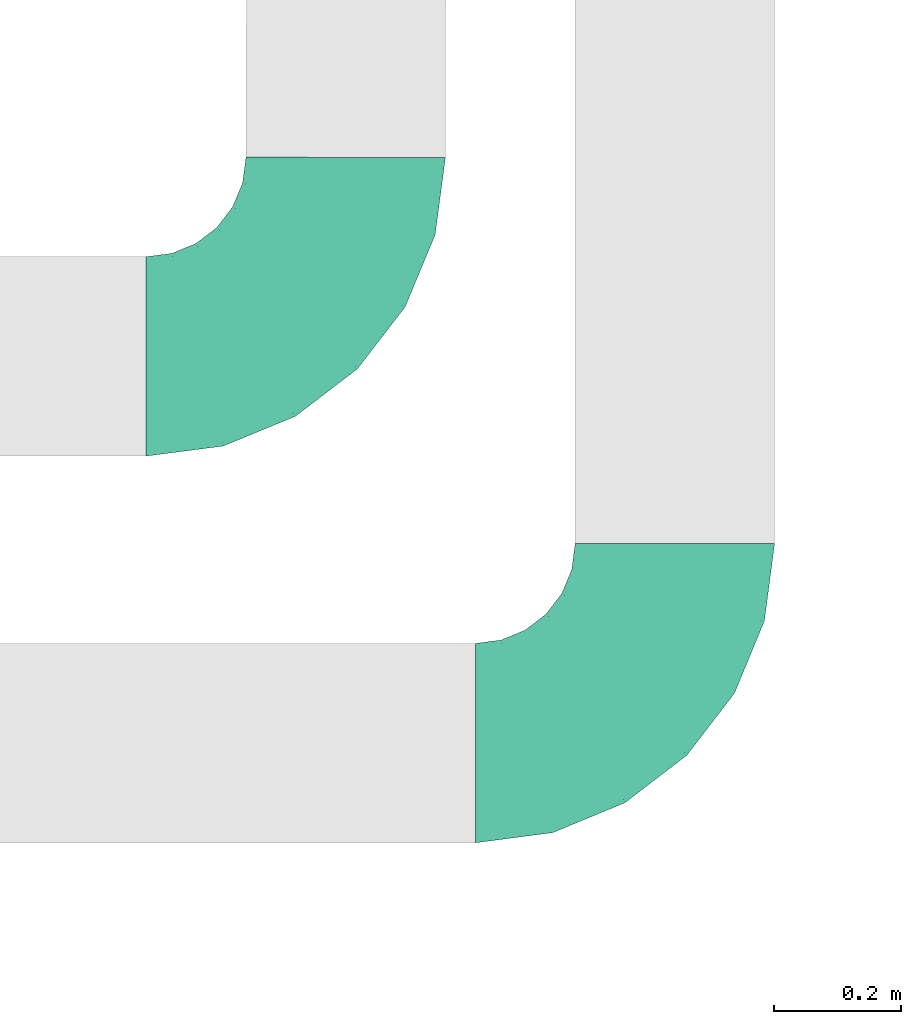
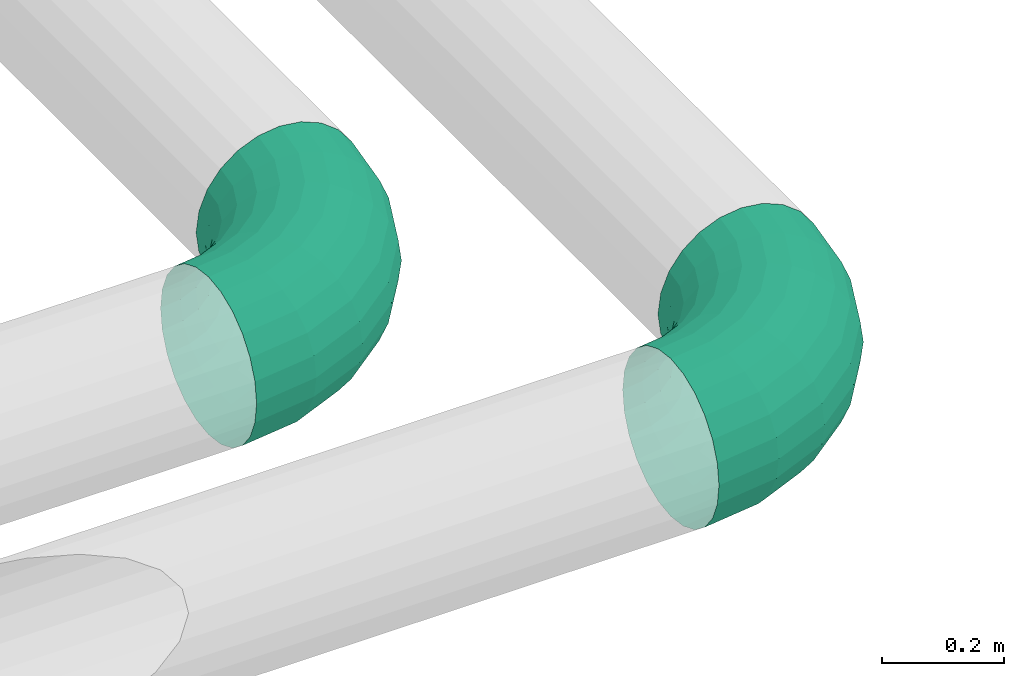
# One storey, part 14 of 119: 2 flow fittings.
"""IFC2X3 building model written with IfcOpenShell, lengths in metres."""

import ifcopenshell
import ifcopenshell.guid

model = None  # the IFC model being written
_history = None  # IfcOwnerHistory: only IFC2X3 demands one
_inside = {}  # id of a spatial element -> (the spatial element, [elements in it])
_under = {}  # id of a project, library or spatial element -> (it, [spatial elements below it])
_declared = {}  # id of a project -> (the project, [libraries it declares])
_typed = {}  # id of a type object -> (the type object, [elements of that type])
_made_of = {}  # id of a material, layer set ... -> (it, [elements and type objects made of it])


def new_model(schema):
    """Start an empty IFC model of exactly this schema.

    Asked for "IFC4X3", IfcOpenShell would pick the latest addendum, in which some entities
    have other attributes; the version numbers below select the first issue.
    IFC2X3 requires an IfcOwnerHistory on every rooted entity: one is made here for all.
    """
    global model, _history
    if schema == "IFC4X3":
        model = ifcopenshell.file(schema_version=(4, 3, 0, 0))
    else:
        model = ifcopenshell.file(schema=schema)
    _inside.clear()
    _under.clear()
    _declared.clear()
    _typed.clear()
    _made_of.clear()
    _history = None
    if model.schema == "IFC2X3":
        org = make("IfcOrganization", Name="unknown")
        user = make(
            "IfcPersonAndOrganization",
            ThePerson=make("IfcPerson", FamilyName="unknown"),
            TheOrganization=org,
        )
        app = make(
            "IfcApplication",
            ApplicationDeveloper=org,
            Version="unknown",
            ApplicationFullName="unknown",
            ApplicationIdentifier="unknown",
        )
        _history = make(
            "IfcOwnerHistory",
            OwningUser=user,
            OwningApplication=app,
            ChangeAction="ADDED",
            CreationDate=0,
        )
    return model


def make(cls, **values):
    """One entity of the class cls with the attributes given. An attribute that is None is left unset."""
    return model.create_entity(
        cls, **{name: value for name, value in values.items() if value is not None}
    )


def rooted(cls, **values):
    """An entity with a GlobalId (a new one), such as an element, a storey or a relation."""
    return make(cls, GlobalId=ifcopenshell.guid.new(), OwnerHistory=_history, **values)


def si_unit(unit_type, name, prefix=None):
    """IfcSIUnit, for example si_unit("LENGTHUNIT", "METRE", prefix="MILLI")."""
    return make("IfcSIUnit", UnitType=unit_type, Prefix=prefix, Name=name)


def assignment(units):
    """IfcUnitAssignment: the units of a project."""
    return None if units is None else make("IfcUnitAssignment", Units=units)


def point(xyz):
    """IfcCartesianPoint."""
    return None if xyz is None else make("IfcCartesianPoint", Coordinates=xyz)


def direction(xyz):
    """IfcDirection."""
    return None if xyz is None else make("IfcDirection", DirectionRatios=xyz)


def frame(location, z_axis=None, x_axis=None):
    """IfcAxis2Placement3D, a coordinate frame: its origin and axes. An axis left out is left unset."""
    return make(
        "IfcAxis2Placement3D",
        Location=point(location),
        Axis=direction(z_axis),
        RefDirection=direction(x_axis),
    )


def origin():
    """The frame at (0, 0, 0) with its axes left unset."""
    return frame((0.0, 0.0, 0.0))


def place(relative_to, where):
    """IfcLocalPlacement: puts the frame where relative to a parent placement (None: the world)."""
    return make(
        "IfcLocalPlacement", PlacementRelTo=relative_to, RelativePlacement=where
    )


def context(
    kind, dimensions, precision=None, world=None, true_north=None, identifier=None
):
    """IfcGeometricRepresentationContext, for example the 3D "Model" context."""
    return make(
        "IfcGeometricRepresentationContext",
        ContextIdentifier=identifier,
        ContextType=kind,
        CoordinateSpaceDimension=dimensions,
        Precision=precision,
        WorldCoordinateSystem=world,
        TrueNorth=true_north,
    )


def subcontext(parent, identifier, kind, view, scale=None):
    """IfcGeometricRepresentationSubContext, for example "Body" below "Model"."""
    return make(
        "IfcGeometricRepresentationSubContext",
        ContextIdentifier=identifier,
        ContextType=kind,
        ParentContext=parent,
        TargetScale=scale,
        TargetView=view,
    )


def project(units=None, contexts=None):
    """IfcProject with its units and contexts."""
    return rooted(
        "IfcProject",
        Name="project",
        RepresentationContexts=contexts,
        UnitsInContext=assignment(units),
    )


def spatial(cls, under=None, at=None, **own):
    """A site, building, storey or space (cls), placed at a placement, below another one or the project."""
    s = rooted(cls, ObjectPlacement=at, **own)
    if under is not None:
        _under.setdefault(under.id(), (under, []))[1].append(s)
    return s


def faces_of(points, faces, orient=None, outer=None):
    """IfcFace entities. A face is a list of loops; a loop is a list of indices into points, from 0.

    orient and outer hold one flag for each loop. By default every Orientation is true, the
    first loop of a face is its IfcFaceOuterBound and the others are IfcFaceBound.
    """
    made = []
    for i, loops in enumerate(faces):
        bounds = []
        for j, loop in enumerate(loops):
            is_outer = j == 0 if outer is None else outer[i][j]
            bounds.append(
                make(
                    "IfcFaceOuterBound" if is_outer else "IfcFaceBound",
                    Bound=make("IfcPolyLoop", Polygon=[points[k] for k in loop]),
                    Orientation=True if orient is None else orient[i][j],
                )
            )
        made.append(make("IfcFace", Bounds=bounds))
    return made


def open_shell(faces, orient=None, outer=None):
    """The faces of one IfcOpenShell. surface_model builds it on its shared points."""
    return ("IfcOpenShell", faces, orient, outer)


def surface_model(cls, points, shells):
    """IfcFaceBasedSurfaceModel or IfcShellBasedSurfaceModel (cls): surfaces that need not close."""
    shared = [point(p) for p in points]
    made = [make(c, CfsFaces=faces_of(shared, fs, o, b)) for c, fs, o, b in shells]
    if cls == "IfcFaceBasedSurfaceModel":
        return make(cls, FbsmFaces=made)
    return make(cls, SbsmBoundary=made)


def shape(context_of_items, identifier, shape_type, items):
    """IfcShapeRepresentation: the items that make up one representation, for example the "Body"."""
    return make(
        "IfcShapeRepresentation",
        ContextOfItems=context_of_items,
        RepresentationIdentifier=identifier,
        RepresentationType=shape_type,
        Items=items,
    )


def source(mapping_origin, context_of_items, identifier, shape_type, items):
    """IfcRepresentationMap: a shape defined once, which mapped items show again and again."""
    return make(
        "IfcRepresentationMap",
        MappingOrigin=mapping_origin,
        MappedRepresentation=shape(context_of_items, identifier, shape_type, items),
    )


def transform(
    local_origin,
    x_axis=None,
    y_axis=None,
    z_axis=None,
    scale=None,
    scale2=None,
    scale3=None,
    uniform=True,
):
    """IfcCartesianTransformationOperator3D, or its non-uniform kind. x_axis, y_axis, z_axis: its Axis1, 2, 3."""
    if uniform:
        return make(
            "IfcCartesianTransformationOperator3D",
            Axis1=direction(x_axis),
            Axis2=direction(y_axis),
            LocalOrigin=point(local_origin),
            Scale=scale,
            Axis3=direction(z_axis),
        )
    return make(
        "IfcCartesianTransformationOperator3DnonUniform",
        Axis1=direction(x_axis),
        Axis2=direction(y_axis),
        LocalOrigin=point(local_origin),
        Scale=scale,
        Axis3=direction(z_axis),
        Scale2=scale2,
        Scale3=scale3,
    )


def mapped(mapping_source, mapping_target):
    """IfcMappedItem: shows the shape of a source again, moved by a transform."""
    return make(
        "IfcMappedItem", MappingSource=mapping_source, MappingTarget=mapping_target
    )


def made_of(thing, what):
    """Note that an element or type object is made of a material, layer set ...; save() writes the relation."""
    if what is not None:
        _made_of.setdefault(what.id(), (what, []))[1].append(thing)
    return thing


def element(
    cls,
    number,
    at=None,
    inside=None,
    cuts=None,
    type_object=None,
    material=None,
    context=None,
    identifier="Body",
    shape_type=None,
    held_by="IfcProductDefinitionShape",
    body=None,
    shapes=None,
    **own,
):
    """One element of the class cls, such as IfcWall. Its Tag is "e" and its number.

    at: its placement. inside: the storey or other place that contains it. cuts: it is an
    opening in that element (IfcRelVoidsElement). A single representation is given by context,
    identifier, shape_type and body (its items); several are given by shapes. held_by: the class
    of the entity that holds the representations. save() writes the other relations.
    """
    e = rooted(cls, Tag="e%d" % number, ObjectPlacement=at, **own)
    if body is not None:
        shapes = [shape(context, identifier, shape_type, body)]
    if shapes is not None:
        e.Representation = make(held_by, Representations=shapes)
    if inside is not None:
        _inside.setdefault(inside.id(), (inside, []))[1].append(e)
    if cuts is not None:
        rooted(
            "IfcRelVoidsElement", RelatingBuildingElement=cuts, RelatedOpeningElement=e
        )
    if type_object is not None:
        _typed.setdefault(type_object.id(), (type_object, []))[1].append(e)
    return made_of(e, material)


def aggregate(whole, parts):
    """IfcRelAggregates: a whole, such as a stair, and the parts it consists of."""
    return rooted("IfcRelAggregates", RelatingObject=whole, RelatedObjects=parts)


def save(model, path):
    """Write the relations noted so far, then the file.

    IfcRelAggregates (storeys below a building ...), IfcRelContainedInSpatialStructure (elements
    in a storey), IfcRelDefinesByType, IfcRelAssociatesMaterial and IfcRelDeclares: one each for
    every whole, place, type object, material and project.
    """
    for whole, parts in _under.values():
        aggregate(whole, parts)
    for where, things in _inside.values():
        rooted(
            "IfcRelContainedInSpatialStructure",
            RelatedElements=things,
            RelatingStructure=where,
        )
    for kind, things in _typed.values():
        rooted("IfcRelDefinesByType", RelatedObjects=things, RelatingType=kind)
    for what, things in _made_of.values():
        rooted("IfcRelAssociatesMaterial", RelatedObjects=things, RelatingMaterial=what)
    for by, libraries in _declared.values():
        rooted("IfcRelDeclares", RelatingContext=by, RelatedDefinitions=libraries)
    model.write(path)


model = new_model("IFC2X3")

# Units and contexts
model_context = context("Model", 3, precision=1e-05, world=origin(), true_north=direction((-0.4480736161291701, 0.8939966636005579)))
body_context = subcontext(model_context, "Body", "Model", "MODEL_VIEW")
ifc_project = project(units=[si_unit("LENGTHUNIT", "METRE"), si_unit("AREAUNIT", "SQUARE_METRE"), si_unit("VOLUMEUNIT", "CUBIC_METRE"), si_unit("PLANEANGLEUNIT", "RADIAN"), si_unit("THERMODYNAMICTEMPERATUREUNIT", "KELVIN"), si_unit("MASSUNIT", "GRAM", prefix="KILO"), si_unit("TIMEUNIT", "SECOND")], contexts=[model_context])

# Site, building, storey
site_placement = place(None, origin())
site = spatial("IfcSite", under=ifc_project, at=site_placement, Name="Site 1", CompositionType="ELEMENT")
building_placement = place(site_placement, origin())
building = spatial("IfcBuilding", under=site, at=building_placement, Name="Undefined", CompositionType="ELEMENT")
storey_placement = place(building_placement, frame((0.0, 0.0, 5.4)))
storey = spatial("IfcBuildingStorey", under=building, at=storey_placement, Name="R+1", CompositionType="ELEMENT", Elevation=5.4)

# Flow fittings
shared_shape_1 = source(origin(), body_context, "Body", "SurfaceModel", [
    surface_model("IfcFaceBasedSurfaceModel", [(0.12334725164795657, 0.0, -1.110223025e-15), (0.12264675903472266, 0.04110978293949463, -7.77156117e-16), (0.0007004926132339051, 0.041109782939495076, -7.77156117e-16), (0.0, 0.0, 0.0), (-0.1170905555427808, 0.04519480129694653, -0.031296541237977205), (-0.11914429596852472, 0.004131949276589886, -0.0316560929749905), (-0.22269912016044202, 0.05308645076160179, -0.0917568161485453), (-0.2259661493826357, 0.01211426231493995, -0.09281096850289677), (-0.3089281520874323, 0.06424692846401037, -0.1772605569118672), (-0.313185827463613, 0.023402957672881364, -0.17929702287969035), (-0.3699012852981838, 0.07791566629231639, -0.2819808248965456), (-0.3748594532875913, 0.03722872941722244, -0.285220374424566), (-0.4014633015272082, 0.09316116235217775, -0.39878110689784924), (-0.4067840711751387, 0.05264937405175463, -0.40336252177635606), (0.12059301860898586, 0.08079531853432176, -0.01055203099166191), (0.0027542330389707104, 0.08079531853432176, -0.01055203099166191), (-0.11106929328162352, 0.08474274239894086, -0.04079441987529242), (-0.21312067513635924, 0.09236857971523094, -0.09921822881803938), (-0.2964452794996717, 0.1031531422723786, -0.18184197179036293), (-0.3553646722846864, 0.11636147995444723, -0.2830349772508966), (-0.38586359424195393, 0.131093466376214, -0.39590110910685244), (0.11732598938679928, 0.11635210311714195, -0.03093698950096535), (0.006021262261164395, 0.1163521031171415, -0.030936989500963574), (-0.10149084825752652, 0.12008064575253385, -0.05950246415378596), (-0.19788356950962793, 0.12728363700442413, -0.11468672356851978), (-0.2765878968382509, 0.13747020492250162, -0.19272905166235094), (-0.3322402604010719, 0.14994615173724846, -0.28831099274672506), (-0.36104804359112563, 0.16386126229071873, -0.3949187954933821), (0.11306831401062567, 0.14535700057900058, -0.05976567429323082), (0.010278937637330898, 0.14535700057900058, -0.05976567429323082), (-0.08900797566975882, 0.14880029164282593, -0.08614575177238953), (-0.17802618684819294, 0.15545221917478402, -0.13710814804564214), (-0.25070925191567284, 0.16485946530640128, -0.2091798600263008), (-0.3021039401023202, 0.1763809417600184, -0.29744931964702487), (-0.32870778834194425, 0.189231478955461, -0.395901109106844), (0.10811014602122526, 0.16583337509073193, -0.09507345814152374), (0.015237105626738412, 0.16583337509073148, -0.09507345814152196), (-0.07447136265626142, 0.16894448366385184, -0.1189085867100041), (-0.15490177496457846, 0.17495468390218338, -0.16495451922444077), (-0.22057293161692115, 0.1834543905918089, -0.230073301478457), (-0.26700945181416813, 0.1938643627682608, -0.3098271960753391), (-0.2910467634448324, 0.20547517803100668, -0.3987811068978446), (0.10278937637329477, 0.17638579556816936, -0.13445417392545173), (0.020557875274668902, 0.17638579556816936, -0.1344541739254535), (-0.05887165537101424, 0.17914042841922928, -0.15555823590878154), (-0.13008622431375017, 0.18446197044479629, -0.1963281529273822), (-0.18823267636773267, 0.19198776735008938, -0.2539855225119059), (-0.22934842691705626, 0.20120494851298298, -0.324601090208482), (-0.2506315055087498, 0.21148537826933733, -0.40336252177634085), (0.09746860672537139, 0.17629513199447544, -0.17522409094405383), (0.025878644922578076, 0.17629513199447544, -0.17522409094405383), (-0.043271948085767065, 0.17869328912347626, -0.19359708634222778), (-0.10527067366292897, 0.18332617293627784, -0.22909098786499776), (-0.1558924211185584, 0.1898780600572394, -0.2792869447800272), (-0.1916874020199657, 0.19790245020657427, -0.3407641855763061), (-0.21021624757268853, 0.20685249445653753, -0.40933313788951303), (0.09251043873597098, 0.1655675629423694, -0.2146048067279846), (0.030836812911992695, 0.1655675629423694, -0.21460480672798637), (-0.028735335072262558, 0.1676335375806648, -0.2304328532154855), (-0.0821462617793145, 0.17162469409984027, -0.261010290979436), (-0.1257561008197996, 0.1772690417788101, -0.3042533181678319), (-0.1565929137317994, 0.18418192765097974, -0.35721499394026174), (-0.17255522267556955, 0.1918922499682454, -0.4162860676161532), (0.08825276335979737, 0.14493415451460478, -0.24991259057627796), (0.0350944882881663, 0.14493415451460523, -0.2499125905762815), (-0.01625246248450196, 0.1467148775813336, -0.2635552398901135), (-0.06228887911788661, 0.15015497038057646, -0.28991081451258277), (-0.09987745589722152, 0.15501999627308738, -0.32718322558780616), (-0.1264565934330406, 0.16097841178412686, -0.3728324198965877), (-0.14021496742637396, 0.16762416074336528, -0.4237474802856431), (0.08498573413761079, 0.11580103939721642, -0.27874127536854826), (0.03836151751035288, 0.11580103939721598, -0.2787412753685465), (-0.0066740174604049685, 0.11736288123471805, -0.2907070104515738), (-0.0470517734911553, 0.12038012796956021, -0.3138230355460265), (-0.08002007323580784, 0.12464715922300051, -0.34651403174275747), (-0.10333218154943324, 0.1298731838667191, -0.3865521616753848), (-0.11539941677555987, 0.13570205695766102, -0.43120889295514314), (0.08293199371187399, 0.08015359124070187, -0.2991262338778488), (0.04041525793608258, 0.08015359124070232, -0.2991262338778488), (-0.0006527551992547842, 0.08157783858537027, -0.31003781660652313), (-0.037473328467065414, 0.08432927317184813, -0.3311173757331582), (-0.06753720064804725, 0.08822038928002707, -0.36092837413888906), (-0.08879556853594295, 0.09298601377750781, -0.3974392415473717), (-0.0997997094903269, 0.09830137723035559, -0.438161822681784), (0.08223150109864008, 0.040421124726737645, -0.30967826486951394), (0.0411157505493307, 0.040421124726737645, -0.30967826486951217), (0.001400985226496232, 0.04179844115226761, -0.32023029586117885), (-0.03420629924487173, 0.044459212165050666, -0.34061525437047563), (-0.06327952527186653, 0.04822211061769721, -0.3694439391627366), (-0.08383740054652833, 0.052830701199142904, -0.4047517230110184), (-0.0944789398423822, 0.057970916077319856, -0.44413243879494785), (0.08293199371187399, -0.0006886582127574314, -0.3096782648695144), (0.04041525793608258, -0.0006886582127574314, -0.3096782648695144), (-0.0006527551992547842, 0.0007355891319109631, -0.3205898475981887), (-0.037473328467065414, 0.0034870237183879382, -0.34166940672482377), (-0.06753720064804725, 0.00737813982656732, -0.37148040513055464), (-0.08879556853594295, 0.012143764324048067, -0.4079912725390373), (-0.0997997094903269, 0.017459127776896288, -0.44871385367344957), (0.08498573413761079, -0.040374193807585, -0.29912623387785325), (0.03836151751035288, -0.040374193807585, -0.2991262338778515), (-0.0066740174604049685, -0.03881235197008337, -0.3110919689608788), (-0.0470517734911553, -0.03579510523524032, -0.33420799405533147), (-0.08002007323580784, -0.031528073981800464, -0.36689899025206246), (-0.10333218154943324, -0.02630204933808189, -0.4069371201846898), (-0.11539941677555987, -0.020473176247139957, -0.45159385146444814), (0.08825276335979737, -0.07593097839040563, -0.2787412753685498), (0.0350944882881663, -0.07593097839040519, -0.27874127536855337), (-0.01625246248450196, -0.0741502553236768, -0.29238392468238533), (-0.06228887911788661, -0.07071016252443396, -0.3187394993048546), (-0.09987745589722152, -0.06584513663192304, -0.356011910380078), (-0.1264565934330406, -0.05988672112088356, -0.40166110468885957), (-0.14021496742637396, -0.05324097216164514, -0.4525761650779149), (0.09251043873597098, -0.10493587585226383, -0.2499125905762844), (0.030836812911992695, -0.10493587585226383, -0.24991259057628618), (-0.028735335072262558, -0.10286990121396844, -0.2657406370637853), (-0.0821462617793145, -0.09887874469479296, -0.2963180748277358), (-0.1257561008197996, -0.09323439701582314, -0.3395611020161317), (-0.1565929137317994, -0.0863215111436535, -0.39252277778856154), (-0.17255522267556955, -0.07861118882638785, -0.451593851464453), (0.09746860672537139, -0.12541225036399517, -0.21460480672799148), (0.025878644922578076, -0.12541225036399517, -0.21460480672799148), (-0.043271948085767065, -0.12301409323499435, -0.23297780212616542), (-0.10527067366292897, -0.11838120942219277, -0.2684717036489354), (-0.1558924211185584, -0.11182932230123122, -0.31866766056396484), (-0.1916874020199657, -0.10380493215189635, -0.38014490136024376), (-0.21021624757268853, -0.09485488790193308, -0.4487138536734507), (0.10278937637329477, -0.13596467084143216, -0.1752240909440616), (0.020557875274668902, -0.13596467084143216, -0.17522409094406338), (-0.05887165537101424, -0.1332100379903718, -0.19632815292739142), (-0.13008622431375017, -0.12788849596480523, -0.23709806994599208), (-0.18823267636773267, -0.12036269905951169, -0.2947554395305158), (-0.22934842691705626, -0.11114551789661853, -0.36537100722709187), (-0.2506315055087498, -0.10086508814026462, -0.44413243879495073), (0.10811014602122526, -0.13587400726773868, -0.13445417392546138), (0.015237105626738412, -0.13587400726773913, -0.1344541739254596), (-0.07447136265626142, -0.13276289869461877, -0.15828930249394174), (-0.15490177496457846, -0.12675269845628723, -0.2043352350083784), (-0.22057293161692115, -0.11825299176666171, -0.26945401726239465), (-0.26700945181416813, -0.10784301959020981, -0.34920791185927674), (-0.2910467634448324, -0.09623220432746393, -0.4381618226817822), (0.11306831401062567, -0.12514643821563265, -0.09507345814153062), (0.010278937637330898, -0.12514643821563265, -0.09507345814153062), (-0.08900797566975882, -0.1217031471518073, -0.12145353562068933), (-0.17802618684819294, -0.11505121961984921, -0.17241593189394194), (-0.25070925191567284, -0.10564397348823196, -0.2444876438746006), (-0.3021039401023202, -0.09412249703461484, -0.33275710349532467), (-0.32870778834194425, -0.08127195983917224, -0.4312088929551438), (0.11732598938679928, -0.10451302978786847, -0.05976567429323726), (0.006021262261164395, -0.10451302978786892, -0.05976567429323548), (-0.10149084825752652, -0.10078448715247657, -0.08833114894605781), (-0.19788356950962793, -0.09358149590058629, -0.14351540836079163), (-0.2765878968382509, -0.0833949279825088, -0.2215577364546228), (-0.3322402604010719, -0.07091898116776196, -0.3171396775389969), (-0.36104804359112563, -0.057003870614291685, -0.42374748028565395), (0.12059301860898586, -0.07537991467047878, -0.030936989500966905), (0.0027542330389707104, -0.07537991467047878, -0.030936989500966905), (-0.11106929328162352, -0.07143249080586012, -0.06117937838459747), (-0.21312067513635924, -0.06380665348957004, -0.11960318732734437), (-0.2964452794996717, -0.05302209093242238, -0.20222693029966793), (-0.3553646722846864, -0.039813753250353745, -0.3034199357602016), (-0.38586359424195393, -0.025081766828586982, -0.41628606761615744), (0.12264675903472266, -0.039732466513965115, -0.010552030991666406), (0.0007004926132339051, -0.039732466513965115, -0.010552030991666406), (-0.1170905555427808, -0.03564744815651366, -0.04184857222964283), (-0.22269912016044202, -0.027755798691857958, -0.10230884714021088), (-0.3089281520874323, -0.016595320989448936, -0.18781258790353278), (-0.3699012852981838, -0.002926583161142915, -0.29253285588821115), (-0.4014633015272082, 0.012318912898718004, -0.4093331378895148)], [open_shell([[[0, 1, 2, 3]], [[3, 2, 4, 5]], [[5, 4, 6, 7]], [[7, 6, 8, 9]], [[9, 8, 10, 11]], [[11, 10, 12, 13]], [[1, 14, 15, 2]], [[2, 15, 16, 4]], [[4, 16, 17, 6]], [[6, 17, 18, 8]], [[8, 18, 19, 10]], [[10, 19, 20, 12]], [[14, 21, 22, 15]], [[15, 22, 23, 16]], [[16, 23, 24, 17]], [[17, 24, 25, 18]], [[18, 25, 26, 19]], [[19, 26, 27, 20]], [[21, 28, 29, 22]], [[22, 29, 30, 23]], [[23, 30, 31, 24]], [[24, 31, 32, 25]], [[25, 32, 33, 26]], [[26, 33, 34, 27]], [[28, 35, 36, 29]], [[29, 36, 37, 30]], [[30, 37, 38, 31]], [[31, 38, 39, 32]], [[32, 39, 40, 33]], [[33, 40, 41, 34]], [[35, 42, 43, 36]], [[36, 43, 44, 37]], [[37, 44, 45, 38]], [[38, 45, 46, 39]], [[39, 46, 47, 40]], [[40, 47, 48, 41]], [[42, 49, 50, 43]], [[43, 50, 51, 44]], [[44, 51, 52, 45]], [[45, 52, 53, 46]], [[46, 53, 54, 47]], [[47, 54, 55, 48]], [[49, 56, 57, 50]], [[50, 57, 58, 51]], [[51, 58, 59, 52]], [[52, 59, 60, 53]], [[53, 60, 61, 54]], [[54, 61, 62, 55]], [[56, 63, 64, 57]], [[57, 64, 65, 58]], [[58, 65, 66, 59]], [[59, 66, 67, 60]], [[60, 67, 68, 61]], [[61, 68, 69, 62]], [[63, 70, 71, 64]], [[64, 71, 72, 65]], [[65, 72, 73, 66]], [[66, 73, 74, 67]], [[67, 74, 75, 68]], [[68, 75, 76, 69]], [[70, 77, 78, 71]], [[71, 78, 79, 72]], [[72, 79, 80, 73]], [[73, 80, 81, 74]], [[74, 81, 82, 75]], [[75, 82, 83, 76]], [[77, 84, 85, 78]], [[78, 85, 86, 79]], [[79, 86, 87, 80]], [[80, 87, 88, 81]], [[81, 88, 89, 82]], [[82, 89, 90, 83]], [[84, 91, 92, 85]], [[85, 92, 93, 86]], [[86, 93, 94, 87]], [[87, 94, 95, 88]], [[88, 95, 96, 89]], [[89, 96, 97, 90]], [[91, 98, 99, 92]], [[92, 99, 100, 93]], [[93, 100, 101, 94]], [[94, 101, 102, 95]], [[95, 102, 103, 96]], [[96, 103, 104, 97]], [[98, 105, 106, 99]], [[99, 106, 107, 100]], [[100, 107, 108, 101]], [[101, 108, 109, 102]], [[102, 109, 110, 103]], [[103, 110, 111, 104]], [[105, 112, 113, 106]], [[106, 113, 114, 107]], [[107, 114, 115, 108]], [[108, 115, 116, 109]], [[109, 116, 117, 110]], [[110, 117, 118, 111]], [[112, 119, 120, 113]], [[113, 120, 121, 114]], [[114, 121, 122, 115]], [[115, 122, 123, 116]], [[116, 123, 124, 117]], [[117, 124, 125, 118]], [[119, 126, 127, 120]], [[120, 127, 128, 121]], [[121, 128, 129, 122]], [[122, 129, 130, 123]], [[123, 130, 131, 124]], [[124, 131, 132, 125]], [[126, 133, 134, 127]], [[127, 134, 135, 128]], [[128, 135, 136, 129]], [[129, 136, 137, 130]], [[130, 137, 138, 131]], [[131, 138, 139, 132]], [[133, 140, 141, 134]], [[134, 141, 142, 135]], [[135, 142, 143, 136]], [[136, 143, 144, 137]], [[137, 144, 145, 138]], [[138, 145, 146, 139]], [[140, 147, 148, 141]], [[141, 148, 149, 142]], [[142, 149, 150, 143]], [[143, 150, 151, 144]], [[144, 151, 152, 145]], [[145, 152, 153, 146]], [[147, 154, 155, 148]], [[148, 155, 156, 149]], [[149, 156, 157, 150]], [[150, 157, 158, 151]], [[151, 158, 159, 152]], [[152, 159, 160, 153]], [[154, 161, 162, 155]], [[155, 162, 163, 156]], [[156, 163, 164, 157]], [[157, 164, 165, 158]], [[158, 165, 166, 159]], [[159, 166, 167, 160]], [[161, 0, 3, 162]], [[162, 3, 5, 163]], [[163, 5, 7, 164]], [[164, 7, 9, 165]], [[165, 9, 11, 166]], [[166, 11, 13, 167]]])]),
])
flow_fitting_1_placement = place(storey_placement, origin())
element("IfcFlowFitting", 1, at=flow_fitting_1_placement, inside=storey, Name="Coude", ObjectType="Coude", context=body_context, shape_type="MappedRepresentation", body=[
    mapped(shared_shape_1, transform((14.371210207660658, 20.069537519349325, 2.75), x_axis=(0.1322563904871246, 0.991215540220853, 0.0), y_axis=(-0.12829135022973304, 0.01711772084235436, 0.9915887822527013), z_axis=(0.9828782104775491, -0.13114395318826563, 0.12942830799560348))),
])
shared_shape_2 = source(origin(), body_context, "Body", "SurfaceModel", [
    surface_model("IfcFaceBasedSurfaceModel", [(0.12334725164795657, 0.0, -1.110223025e-15), (0.12264675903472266, 0.04110978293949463, -7.77156117e-16), (0.0007004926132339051, 0.041109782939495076, -7.77156117e-16), (0.0, 0.0, 0.0), (-0.1170905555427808, 0.04519480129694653, -0.031296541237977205), (-0.11914429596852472, 0.004131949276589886, -0.0316560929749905), (-0.22269912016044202, 0.05308645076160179, -0.0917568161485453), (-0.2259661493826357, 0.01211426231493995, -0.09281096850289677), (-0.3089281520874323, 0.06424692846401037, -0.1772605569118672), (-0.313185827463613, 0.023402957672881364, -0.17929702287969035), (-0.3699012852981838, 0.07791566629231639, -0.2819808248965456), (-0.3748594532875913, 0.03722872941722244, -0.285220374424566), (-0.4014633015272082, 0.09316116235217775, -0.39878110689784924), (-0.4067840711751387, 0.05264937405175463, -0.40336252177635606), (0.12059301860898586, 0.08079531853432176, -0.01055203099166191), (0.0027542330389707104, 0.08079531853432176, -0.01055203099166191), (-0.11106929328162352, 0.08474274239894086, -0.04079441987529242), (-0.21312067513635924, 0.09236857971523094, -0.09921822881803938), (-0.2964452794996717, 0.1031531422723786, -0.18184197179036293), (-0.3553646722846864, 0.11636147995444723, -0.2830349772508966), (-0.38586359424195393, 0.131093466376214, -0.39590110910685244), (0.11732598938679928, 0.11635210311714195, -0.03093698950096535), (0.006021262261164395, 0.1163521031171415, -0.030936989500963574), (-0.10149084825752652, 0.12008064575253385, -0.05950246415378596), (-0.19788356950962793, 0.12728363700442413, -0.11468672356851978), (-0.2765878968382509, 0.13747020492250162, -0.19272905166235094), (-0.3322402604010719, 0.14994615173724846, -0.28831099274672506), (-0.36104804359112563, 0.16386126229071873, -0.3949187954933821), (0.11306831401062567, 0.14535700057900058, -0.05976567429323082), (0.010278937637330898, 0.14535700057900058, -0.05976567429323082), (-0.08900797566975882, 0.14880029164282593, -0.08614575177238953), (-0.17802618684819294, 0.15545221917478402, -0.13710814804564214), (-0.25070925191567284, 0.16485946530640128, -0.2091798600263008), (-0.3021039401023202, 0.1763809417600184, -0.29744931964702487), (-0.32870778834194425, 0.189231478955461, -0.395901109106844), (0.10811014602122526, 0.16583337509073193, -0.09507345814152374), (0.015237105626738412, 0.16583337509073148, -0.09507345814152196), (-0.07447136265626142, 0.16894448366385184, -0.1189085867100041), (-0.15490177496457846, 0.17495468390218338, -0.16495451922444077), (-0.22057293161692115, 0.1834543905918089, -0.230073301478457), (-0.26700945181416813, 0.1938643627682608, -0.3098271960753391), (-0.2910467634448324, 0.20547517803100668, -0.3987811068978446), (0.10278937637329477, 0.17638579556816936, -0.13445417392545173), (0.020557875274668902, 0.17638579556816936, -0.1344541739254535), (-0.05887165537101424, 0.17914042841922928, -0.15555823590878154), (-0.13008622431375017, 0.18446197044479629, -0.1963281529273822), (-0.18823267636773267, 0.19198776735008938, -0.2539855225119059), (-0.22934842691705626, 0.20120494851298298, -0.324601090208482), (-0.2506315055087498, 0.21148537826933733, -0.40336252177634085), (0.09746860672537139, 0.17629513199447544, -0.17522409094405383), (0.025878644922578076, 0.17629513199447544, -0.17522409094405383), (-0.043271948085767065, 0.17869328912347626, -0.19359708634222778), (-0.10527067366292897, 0.18332617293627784, -0.22909098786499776), (-0.1558924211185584, 0.1898780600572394, -0.2792869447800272), (-0.1916874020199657, 0.19790245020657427, -0.3407641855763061), (-0.21021624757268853, 0.20685249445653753, -0.40933313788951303), (0.09251043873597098, 0.1655675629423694, -0.2146048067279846), (0.030836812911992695, 0.1655675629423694, -0.21460480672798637), (-0.028735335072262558, 0.1676335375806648, -0.2304328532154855), (-0.0821462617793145, 0.17162469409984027, -0.261010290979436), (-0.1257561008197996, 0.1772690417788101, -0.3042533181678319), (-0.1565929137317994, 0.18418192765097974, -0.35721499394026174), (-0.17255522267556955, 0.1918922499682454, -0.4162860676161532), (0.08825276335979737, 0.14493415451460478, -0.24991259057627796), (0.0350944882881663, 0.14493415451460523, -0.2499125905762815), (-0.01625246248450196, 0.1467148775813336, -0.2635552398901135), (-0.06228887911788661, 0.15015497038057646, -0.28991081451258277), (-0.09987745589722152, 0.15501999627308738, -0.32718322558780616), (-0.1264565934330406, 0.16097841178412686, -0.3728324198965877), (-0.14021496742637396, 0.16762416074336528, -0.4237474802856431), (0.08498573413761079, 0.11580103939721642, -0.27874127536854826), (0.03836151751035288, 0.11580103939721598, -0.2787412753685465), (-0.0066740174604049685, 0.11736288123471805, -0.2907070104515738), (-0.0470517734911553, 0.12038012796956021, -0.3138230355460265), (-0.08002007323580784, 0.12464715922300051, -0.34651403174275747), (-0.10333218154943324, 0.1298731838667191, -0.3865521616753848), (-0.11539941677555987, 0.13570205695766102, -0.43120889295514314), (0.08293199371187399, 0.08015359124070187, -0.2991262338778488), (0.04041525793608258, 0.08015359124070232, -0.2991262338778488), (-0.0006527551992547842, 0.08157783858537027, -0.31003781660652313), (-0.037473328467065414, 0.08432927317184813, -0.3311173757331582), (-0.06753720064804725, 0.08822038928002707, -0.36092837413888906), (-0.08879556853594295, 0.09298601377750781, -0.3974392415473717), (-0.0997997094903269, 0.09830137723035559, -0.438161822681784), (0.08223150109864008, 0.040421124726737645, -0.30967826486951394), (0.0411157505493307, 0.040421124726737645, -0.30967826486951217), (0.001400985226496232, 0.04179844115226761, -0.32023029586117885), (-0.03420629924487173, 0.044459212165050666, -0.34061525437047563), (-0.06327952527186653, 0.04822211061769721, -0.3694439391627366), (-0.08383740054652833, 0.052830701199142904, -0.4047517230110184), (-0.0944789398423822, 0.057970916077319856, -0.44413243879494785), (0.08293199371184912, -0.0006886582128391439, -0.3096782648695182), (0.040415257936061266, -0.0006886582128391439, -0.3096782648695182), (-0.0006527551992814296, 0.0007355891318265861, -0.32058984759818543), (-0.037473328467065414, 0.0034870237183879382, -0.34166940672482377), (-0.06753720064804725, 0.00737813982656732, -0.37148040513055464), (-0.08879556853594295, 0.012143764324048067, -0.4079912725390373), (-0.0997997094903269, 0.017459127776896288, -0.44871385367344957), (0.08498573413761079, -0.040374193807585, -0.29912623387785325), (0.03836151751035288, -0.040374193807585, -0.2991262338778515), (-0.0066740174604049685, -0.03881235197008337, -0.3110919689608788), (-0.0470517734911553, -0.03579510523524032, -0.33420799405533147), (-0.08002007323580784, -0.031528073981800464, -0.36689899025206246), (-0.10333218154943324, -0.02630204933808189, -0.4069371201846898), (-0.11539941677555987, -0.020473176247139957, -0.45159385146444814), (0.08825276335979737, -0.07593097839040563, -0.2787412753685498), (0.0350944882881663, -0.07593097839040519, -0.27874127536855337), (-0.01625246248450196, -0.0741502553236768, -0.29238392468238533), (-0.06228887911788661, -0.07071016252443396, -0.3187394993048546), (-0.09987745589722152, -0.06584513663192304, -0.356011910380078), (-0.1264565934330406, -0.05988672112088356, -0.40166110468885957), (-0.14021496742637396, -0.05324097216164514, -0.4525761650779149), (0.09251043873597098, -0.10493587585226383, -0.2499125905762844), (0.030836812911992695, -0.10493587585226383, -0.24991259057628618), (-0.028735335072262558, -0.10286990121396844, -0.2657406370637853), (-0.0821462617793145, -0.09887874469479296, -0.2963180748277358), (-0.1257561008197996, -0.09323439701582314, -0.3395611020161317), (-0.1565929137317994, -0.0863215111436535, -0.39252277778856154), (-0.17255522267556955, -0.07861118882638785, -0.451593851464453), (0.09746860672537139, -0.12541225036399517, -0.21460480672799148), (0.025878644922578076, -0.12541225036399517, -0.21460480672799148), (-0.043271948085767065, -0.12301409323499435, -0.23297780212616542), (-0.10527067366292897, -0.11838120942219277, -0.2684717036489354), (-0.1558924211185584, -0.11182932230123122, -0.31866766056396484), (-0.1916874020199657, -0.10380493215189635, -0.38014490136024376), (-0.21021624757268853, -0.09485488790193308, -0.4487138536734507), (0.10278937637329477, -0.13596467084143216, -0.1752240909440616), (0.020557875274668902, -0.13596467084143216, -0.17522409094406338), (-0.05887165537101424, -0.1332100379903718, -0.19632815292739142), (-0.13008622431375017, -0.12788849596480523, -0.23709806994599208), (-0.18823267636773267, -0.12036269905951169, -0.2947554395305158), (-0.22934842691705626, -0.11114551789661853, -0.36537100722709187), (-0.2506315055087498, -0.10086508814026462, -0.44413243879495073), (0.10811014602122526, -0.13587400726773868, -0.13445417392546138), (0.015237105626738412, -0.13587400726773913, -0.1344541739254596), (-0.07447136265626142, -0.13276289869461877, -0.15828930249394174), (-0.15490177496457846, -0.12675269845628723, -0.2043352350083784), (-0.22057293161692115, -0.11825299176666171, -0.26945401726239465), (-0.26700945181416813, -0.10784301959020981, -0.34920791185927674), (-0.2910467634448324, -0.09623220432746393, -0.4381618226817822), (0.11306831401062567, -0.12514643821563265, -0.09507345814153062), (0.010278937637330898, -0.12514643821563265, -0.09507345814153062), (-0.08900797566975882, -0.1217031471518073, -0.12145353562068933), (-0.17802618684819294, -0.11505121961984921, -0.17241593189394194), (-0.25070925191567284, -0.10564397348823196, -0.2444876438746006), (-0.3021039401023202, -0.09412249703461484, -0.33275710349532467), (-0.32870778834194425, -0.08127195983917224, -0.4312088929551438), (0.11732598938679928, -0.10451302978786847, -0.05976567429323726), (0.006021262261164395, -0.10451302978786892, -0.05976567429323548), (-0.10149084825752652, -0.10078448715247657, -0.08833114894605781), (-0.19788356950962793, -0.09358149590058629, -0.14351540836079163), (-0.2765878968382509, -0.0833949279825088, -0.2215577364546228), (-0.3322402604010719, -0.07091898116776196, -0.3171396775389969), (-0.36104804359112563, -0.057003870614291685, -0.42374748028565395), (0.12059301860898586, -0.07537991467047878, -0.030936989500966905), (0.0027542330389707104, -0.07537991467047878, -0.030936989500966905), (-0.11106929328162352, -0.07143249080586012, -0.06117937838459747), (-0.21312067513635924, -0.06380665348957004, -0.11960318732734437), (-0.2964452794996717, -0.05302209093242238, -0.20222693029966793), (-0.3553646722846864, -0.039813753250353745, -0.3034199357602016), (-0.38586359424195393, -0.025081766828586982, -0.41628606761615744), (0.12264675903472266, -0.039732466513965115, -0.010552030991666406), (0.0007004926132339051, -0.039732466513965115, -0.010552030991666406), (-0.1170905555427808, -0.03564744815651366, -0.04184857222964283), (-0.22269912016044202, -0.027755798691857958, -0.10230884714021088), (-0.3089281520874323, -0.016595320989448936, -0.18781258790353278), (-0.3699012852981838, -0.002926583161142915, -0.29253285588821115), (-0.4014633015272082, 0.012318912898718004, -0.4093331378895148)], [open_shell([[[0, 1, 2, 3]], [[3, 2, 4, 5]], [[5, 4, 6, 7]], [[7, 6, 8, 9]], [[9, 8, 10, 11]], [[11, 10, 12, 13]], [[1, 14, 15, 2]], [[2, 15, 16, 4]], [[4, 16, 17, 6]], [[6, 17, 18, 8]], [[8, 18, 19, 10]], [[10, 19, 20, 12]], [[14, 21, 22, 15]], [[15, 22, 23, 16]], [[16, 23, 24, 17]], [[17, 24, 25, 18]], [[18, 25, 26, 19]], [[19, 26, 27, 20]], [[21, 28, 29, 22]], [[22, 29, 30, 23]], [[23, 30, 31, 24]], [[24, 31, 32, 25]], [[25, 32, 33, 26]], [[26, 33, 34, 27]], [[28, 35, 36, 29]], [[29, 36, 37, 30]], [[30, 37, 38, 31]], [[31, 38, 39, 32]], [[32, 39, 40, 33]], [[33, 40, 41, 34]], [[35, 42, 43, 36]], [[36, 43, 44, 37]], [[37, 44, 45, 38]], [[38, 45, 46, 39]], [[39, 46, 47, 40]], [[40, 47, 48, 41]], [[42, 49, 50, 43]], [[43, 50, 51, 44]], [[44, 51, 52, 45]], [[45, 52, 53, 46]], [[46, 53, 54, 47]], [[47, 54, 55, 48]], [[49, 56, 57, 50]], [[50, 57, 58, 51]], [[51, 58, 59, 52]], [[52, 59, 60, 53]], [[53, 60, 61, 54]], [[54, 61, 62, 55]], [[56, 63, 64, 57]], [[57, 64, 65, 58]], [[58, 65, 66, 59]], [[59, 66, 67, 60]], [[60, 67, 68, 61]], [[61, 68, 69, 62]], [[63, 70, 71, 64]], [[64, 71, 72, 65]], [[65, 72, 73, 66]], [[66, 73, 74, 67]], [[67, 74, 75, 68]], [[68, 75, 76, 69]], [[70, 77, 78, 71]], [[71, 78, 79, 72]], [[72, 79, 80, 73]], [[73, 80, 81, 74]], [[74, 81, 82, 75]], [[75, 82, 83, 76]], [[77, 84, 85, 78]], [[78, 85, 86, 79]], [[79, 86, 87, 80]], [[80, 87, 88, 81]], [[81, 88, 89, 82]], [[82, 89, 90, 83]], [[84, 91, 92, 85]], [[85, 92, 93, 86]], [[86, 93, 94, 87]], [[87, 94, 95, 88]], [[88, 95, 96, 89]], [[89, 96, 97, 90]], [[91, 98, 99, 92]], [[92, 99, 100, 93]], [[93, 100, 101, 94]], [[94, 101, 102, 95]], [[95, 102, 103, 96]], [[96, 103, 104, 97]], [[98, 105, 106, 99]], [[99, 106, 107, 100]], [[100, 107, 108, 101]], [[101, 108, 109, 102]], [[102, 109, 110, 103]], [[103, 110, 111, 104]], [[105, 112, 113, 106]], [[106, 113, 114, 107]], [[107, 114, 115, 108]], [[108, 115, 116, 109]], [[109, 116, 117, 110]], [[110, 117, 118, 111]], [[112, 119, 120, 113]], [[113, 120, 121, 114]], [[114, 121, 122, 115]], [[115, 122, 123, 116]], [[116, 123, 124, 117]], [[117, 124, 125, 118]], [[119, 126, 127, 120]], [[120, 127, 128, 121]], [[121, 128, 129, 122]], [[122, 129, 130, 123]], [[123, 130, 131, 124]], [[124, 131, 132, 125]], [[126, 133, 134, 127]], [[127, 134, 135, 128]], [[128, 135, 136, 129]], [[129, 136, 137, 130]], [[130, 137, 138, 131]], [[131, 138, 139, 132]], [[133, 140, 141, 134]], [[134, 141, 142, 135]], [[135, 142, 143, 136]], [[136, 143, 144, 137]], [[137, 144, 145, 138]], [[138, 145, 146, 139]], [[140, 147, 148, 141]], [[141, 148, 149, 142]], [[142, 149, 150, 143]], [[143, 150, 151, 144]], [[144, 151, 152, 145]], [[145, 152, 153, 146]], [[147, 154, 155, 148]], [[148, 155, 156, 149]], [[149, 156, 157, 150]], [[150, 157, 158, 151]], [[151, 158, 159, 152]], [[152, 159, 160, 153]], [[154, 161, 162, 155]], [[155, 162, 163, 156]], [[156, 163, 164, 157]], [[157, 164, 165, 158]], [[158, 165, 166, 159]], [[159, 166, 167, 160]], [[161, 0, 3, 162]], [[162, 3, 5, 163]], [[163, 5, 7, 164]], [[164, 7, 9, 165]], [[165, 9, 11, 166]], [[166, 11, 13, 167]]])]),
])
flow_fitting_2_placement = place(storey_placement, origin())
element("IfcFlowFitting", 2, at=flow_fitting_2_placement, inside=storey, Name="Coude", ObjectType="Coude", context=body_context, shape_type="MappedRepresentation", body=[
    mapped(shared_shape_2, transform((14.891186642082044, 19.459634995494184, 2.775), x_axis=(0.13052619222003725, 0.9914448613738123, 0.0), y_axis=(-0.12832103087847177, 0.016893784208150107, 0.9915887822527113), z_axis=(0.983105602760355, -0.12942830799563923, 0.12942830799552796))),
])

save(model, "model.ifc")
